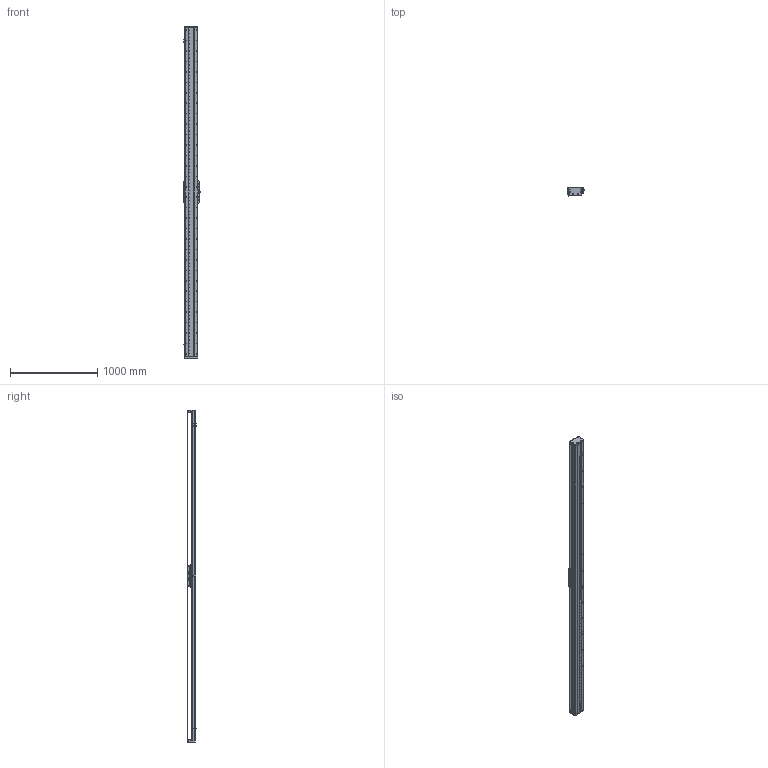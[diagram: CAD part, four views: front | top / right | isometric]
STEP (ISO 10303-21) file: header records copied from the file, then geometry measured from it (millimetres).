
FILE_DESCRIPTION (( 'STEP AP203' ), '1' );
FILE_NAME ('DA-C145-C3-T3480-C010-0.2 眻盄萇儂.STEP', '2025-08-14T01:39:14', ( '' ), ( '' ), 'SwSTEP 2.0', 'SolidWorks 2019', '' );
FILE_SCHEMA (( 'CONFIG_CONTROL_DESIGN' ));
Length unit declared in the file: millimetre
Products named in the file (32): CU145-W-00 珨极趙賑雄怢啣; CU145-W 幗紩賑怢; 复件 DA95-HK-GT-00 滑块钢轨^CU145-W-00 一体化滑动台板; DA-C145-C3-T3480-C010-0.2 眻盄萇儂; 葩璃 CKMA01-W060-TRL^DA-C145-C3-T-C010-0.2; 葩璃 DMA-010-0.2 黍杅芛^DA-C145-C3-T-C010-0.2; 复件 DA146 钢带垫块^复件 CU145 钢带组件_DA-C145-C3-T-C010-0.2; 复件 半圆头内六角螺钉 M3×6^CU145-W 滚珠滑台; 葩璃 鞠褒情蹟譫 M3^DA-C145-C3-T-C010-0.2; 葩璃 CKM03-W060-C1C2-TP-0.2^DA-C145-C3-T-C010-0.2; IU-CU145-L-00 菁釱(L3780); 葩璃 CU145 詩湍郪璃^DA-C145-C3-T-C010-0.2; 复件 DA145-C3-DK-00 挡块^CU145-W 滚珠滑台; 复件 DA95-MFP-01 密封片^CU145-W 滚珠滑台; 复件 DA145-DG 钢带端盖^复件 CU145 钢带组件_DA-C145-C3-T-C010-0.2; 复件 DA145-C3-YB-A-00 压板A^CU145-W 滚珠滑台; 葩璃 DA145-C3-DP-A-00 菜えA^CU145-W 幗紩賑怢; 复件 内六角平端紧定螺钉 GB.T77-2000 M5×10^CU145-W 滚珠滑台; 葩璃 DA95-HXJ-00 遣喳砎蝶^DA-C145-C3-T-C010-0.2; 复件 纯铜油杯 6x6mm^CU145-W 滚珠滑台; 复件 DA146 钢带拉块^复件 CU145 钢带组件_DA-C145-C3-T-C010-0.2; 葩璃 XD-U-02L 棠掑喜^DA-C145-C3-T-C010-0.2; IU-CU145-L 菁釱絳寢; 葩璃 DA95-GT-T-00^IU-CU145-L 菁釱絳寢; 葩璃 DA145-C3-DP-B-00 菜えB^CU145-W 幗紩賑怢; 复件 DA145-GYP-00 光电感应片^DA-C145-C3-T-C010-0.2; 复件 DA95-DB-00  挡板^CU145-W 滚珠滑台; 复件 DA145 钢带^复件 CU145 钢带组件_DA-C145-C3-T-C010-0.2; TAY01-M8; 66245-CU145-HT-W-00 賑雄怢啣(3D芞祧)(00); 葩璃 PM-T45^DA-C145-C3-T-C010-0.2; 复件 DA145-C3-YB-B-00 压板B^CU145-W 滚珠滑台
Assembly tree (103 placements, depth 4):
  DA-C145-C3-T3480-C010-0.2 眻盄萇儂
    IU-CU145-L 菁釱絳寢
      IU-CU145-L-00 菁釱(L3780)
      葩璃 DA95-GT-T-00^IU-CU145-L 菁釱絳寢  x4
    葩璃 CU145 詩湍郪璃^DA-C145-C3-T-C010-0.2
      复件 DA145-DG 钢带端盖^复件 CU145 钢带组件_DA-C145-C3-T-C010-0.2  x2
      复件 DA146 钢带拉块^复件 CU145 钢带组件_DA-C145-C3-T-C010-0.2  x2
      复件 DA146 钢带垫块^复件 CU145 钢带组件_DA-C145-C3-T-C010-0.2  x2
      复件 DA145 钢带^复件 CU145 钢带组件_DA-C145-C3-T-C010-0.2
    CU145-W 幗紩賑怢
      CU145-W-00 珨极趙賑雄怢啣
        66245-CU145-HT-W-00 賑雄怢啣(3D芞祧)(00)
        复件 DA95-HK-GT-00 滑块钢轨^CU145-W-00 一体化滑动台板  x8
      复件 DA95-MFP-01 密封片^CU145-W 滚珠滑台  x8
      复件 DA95-DB-00  挡板^CU145-W 滚珠滑台  x8
      复件 内六角平端紧定螺钉 GB.T77-2000 M5×10^CU145-W 滚珠滑台  x4
      复件 纯铜油杯 6x6mm^CU145-W 滚珠滑台  x4
      复件 半圆头内六角螺钉 M3×6^CU145-W 滚珠滑台  x16
      复件 DA145-C3-DK-00 挡块^CU145-W 滚珠滑台  x4
      葩璃 DA145-C3-DP-B-00 菜えB^CU145-W 幗紩賑怢  x2
      复件 DA145-C3-YB-B-00 压板B^CU145-W 滚珠滑台  x2
      葩璃 DA145-C3-DP-A-00 菜えA^CU145-W 幗紩賑怢  x3
      复件 DA145-C3-YB-A-00 压板A^CU145-W 滚珠滑台  x3
      TAY01-M8  x4
    葩璃 CKMA01-W060-TRL^DA-C145-C3-T-C010-0.2
    葩璃 PM-T45^DA-C145-C3-T-C010-0.2  x3
    葩璃 XD-U-02L 棠掑喜^DA-C145-C3-T-C010-0.2
    葩璃 DA95-HXJ-00 遣喳砎蝶^DA-C145-C3-T-C010-0.2  x4
    复件 DA145-GYP-00 光电感应片^DA-C145-C3-T-C010-0.2
    葩璃 DMA-010-0.2 黍杅芛^DA-C145-C3-T-C010-0.2
    葩璃 CKM03-W060-C1C2-TP-0.2^DA-C145-C3-T-C010-0.2
    葩璃 鞠褒情蹟譫 M3^DA-C145-C3-T-C010-0.2  x8
Bounding box: 203.5 x 108.45 x 3816 mm (x, y, z)
Volume: 16967044 mm3; surface area: 5800858.9 mm2
Topology: 99 solids, 131 shells, 5123 faces, 15254 edges, 9634 vertices
Faces by surface type: cylinder 2739, plane 1616, cone 690, torus 74, sphere 4
Entity records: 156484 total; most frequent: CARTESIAN_POINT 50106, ORIENTED_EDGE 22028, DIRECTION 20229, EDGE_CURVE 11014, AXIS2_PLACEMENT_3D 7624, VERTEX_POINT 7173, LINE 4981, VECTOR 4981
